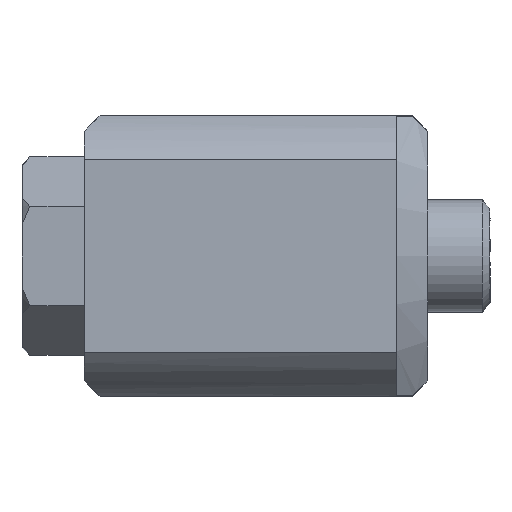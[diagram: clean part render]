
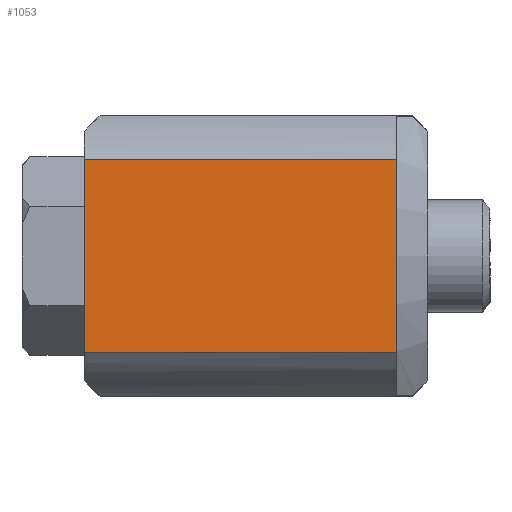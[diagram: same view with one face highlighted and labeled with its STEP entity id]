
A CAD part, left-side view. The second image highlights one B-rep face of the part: STEP entity #1053.
In plain terms, the highlighted planar face has unit normal (-1, 0, 0).
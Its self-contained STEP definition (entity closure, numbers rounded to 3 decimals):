
#133=PLANE('',#1261);
#187=FACE_OUTER_BOUND('',#259,.T.);
#259=EDGE_LOOP('',(#879,#880,#881,#882));
#325=LINE('',#1841,#388);
#329=LINE('',#1862,#392);
#339=LINE('',#1890,#402);
#340=LINE('',#1891,#403);
#388=VECTOR('',#1479,10.);
#392=VECTOR('',#1497,10.);
#402=VECTOR('',#1527,10.);
#403=VECTOR('',#1528,10.);
#522=VERTEX_POINT('',#1837);
#524=VERTEX_POINT('',#1840);
#533=VERTEX_POINT('',#1859);
#534=VERTEX_POINT('',#1861);
#639=EDGE_CURVE('',#524,#522,#325,.T.);
#649=EDGE_CURVE('',#534,#533,#329,.T.);
#664=EDGE_CURVE('',#522,#534,#339,.T.);
#665=EDGE_CURVE('',#524,#533,#340,.T.);
#879=ORIENTED_EDGE('',*,*,#639,.T.);
#880=ORIENTED_EDGE('',*,*,#664,.T.);
#881=ORIENTED_EDGE('',*,*,#649,.T.);
#882=ORIENTED_EDGE('',*,*,#665,.F.);
#1053=ADVANCED_FACE('',(#187),#133,.T.);
#1261=AXIS2_PLACEMENT_3D('',#1889,#1525,#1526);
#1479=DIRECTION('',(0.,-1.,0.));
#1497=DIRECTION('',(0.,1.,0.));
#1525=DIRECTION('center_axis',(-1.,0.,0.));
#1526=DIRECTION('ref_axis',(0.,0.,1.));
#1527=DIRECTION('',(0.,0.,1.));
#1528=DIRECTION('',(0.,0.,1.));
#1837=CARTESIAN_POINT('',(-7.85,2.,-6.195));
#1840=CARTESIAN_POINT('',(-7.85,22.,-6.195));
#1841=CARTESIAN_POINT('',(-7.85,22.,-6.195));
#1859=CARTESIAN_POINT('',(-7.85,22.,6.195));
#1861=CARTESIAN_POINT('',(-7.85,2.,6.195));
#1862=CARTESIAN_POINT('',(-7.85,22.,6.195));
#1889=CARTESIAN_POINT('Origin',(-7.85,0.,-10.));
#1890=CARTESIAN_POINT('',(-7.85,2.,-5.));
#1891=CARTESIAN_POINT('',(-7.85,22.,-10.));
